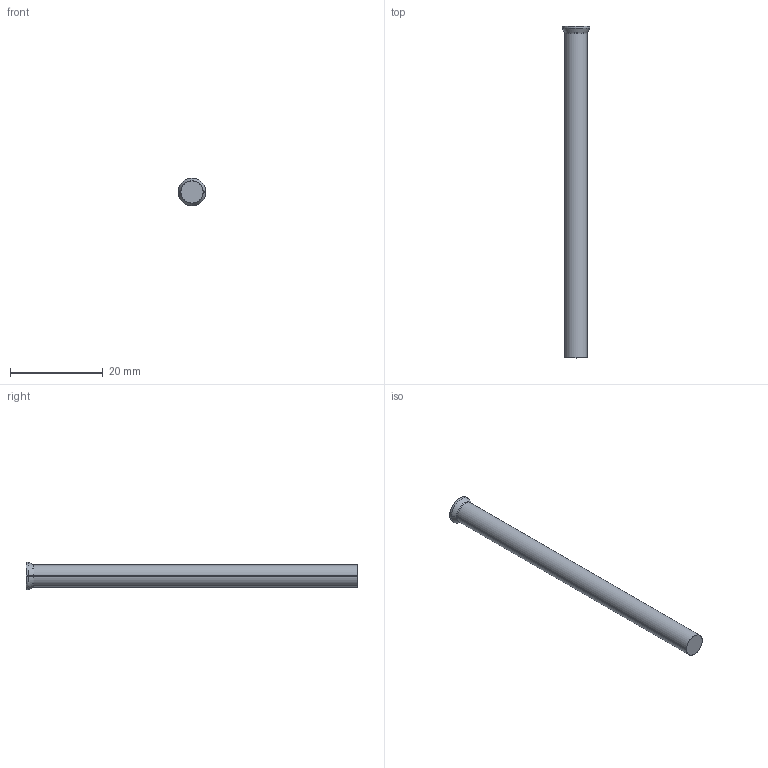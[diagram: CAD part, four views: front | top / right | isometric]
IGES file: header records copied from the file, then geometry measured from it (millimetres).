
Start section: SolidWorks IGES file using analytic representation for surfaces
Global section: file name: D:\Cleonir_arquivos\MT_15_07\Punções de Corte Tipo DA DIN 9861\PNDA04,8070H.igs; native system: SolidWorks 2013; preprocessor: SolidWorks 2013; author: Cleonir; date: 130731.205158; units: millimetre
Bounding box: 6 x 71.5 x 6 mm (x, y, z)
Surface area: 1131.1 mm2 (no closed solid volume)
Topology: 0 solids, 0 shells, 320 faces, 1943 edges, 1943 vertices
Faces by surface type: bspline 306, revolution 14
